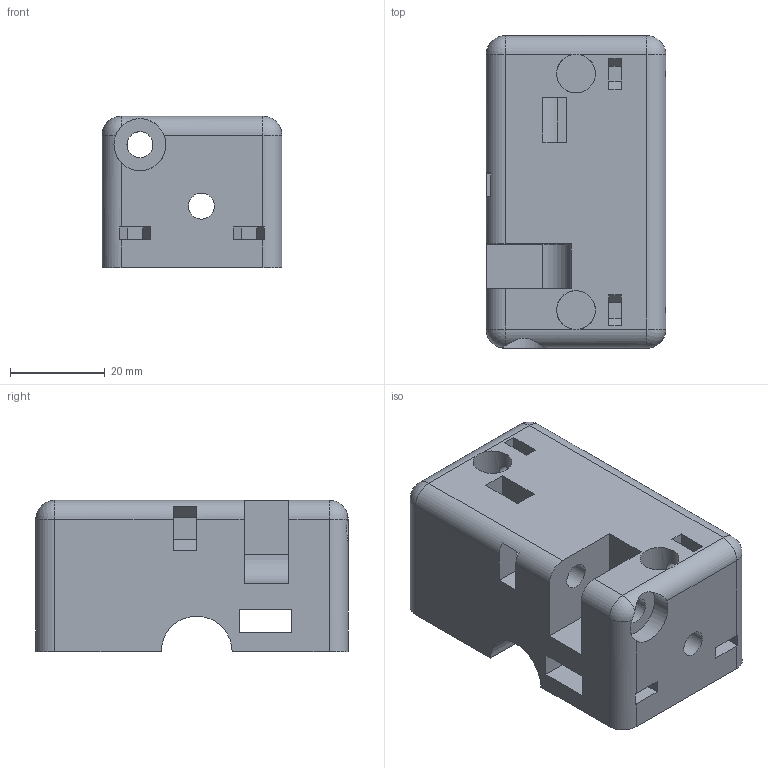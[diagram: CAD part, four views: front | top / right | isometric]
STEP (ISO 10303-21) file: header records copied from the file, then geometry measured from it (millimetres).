
FILE_DESCRIPTION(/* description */ (''),/* implementation_level */ '2;1');
FILE_NAME(/* name */ 'Gantry Primary Right x1 v4.step',/* time_stamp */ '2023-03-23T06:38:58-06:00',/* author */ (''),/* organization */ (''),/* preprocessor_version */ 'ST-DEVELOPER v19.2',/* originating_system */ 'Autodesk Translation Framework v11.17.0.187',/* authorisation */ '');
FILE_SCHEMA (('AUTOMOTIVE_DESIGN { 1 0 10303 214 3 1 1 }'));
Length unit declared in the file: millimetre
Products named in the file (2): Gantry Primary Right x1; R Gantry 1
Assembly tree (1 placements, depth 2):
  Gantry Primary Right x1
    R Gantry 1
Bounding box: 38 x 66 x 32 mm (x, y, z)
Volume: 57804.1 mm3; surface area: 19409.3 mm2
Topology: 1 solids, 5 shells, 190 faces, 525 edges, 347 vertices
Faces by surface type: plane 110, bspline 39, cylinder 37, sphere 4
Full cylindrical faces by diameter (mm): 3.5 x12, 5.5 x6, 8.2 x2, 11 x2
Entity records: 6637 total; most frequent: CARTESIAN_POINT 1895, ORIENTED_EDGE 1050, DIRECTION 821, EDGE_CURVE 525, VERTEX_POINT 347, LINE 343, VECTOR 343, AXIS2_PLACEMENT_3D 239
